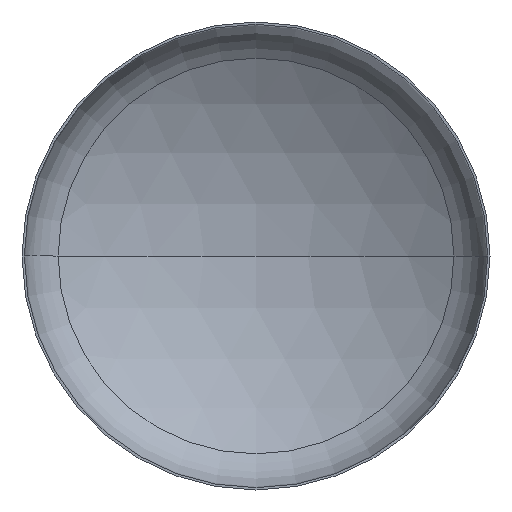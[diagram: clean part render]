
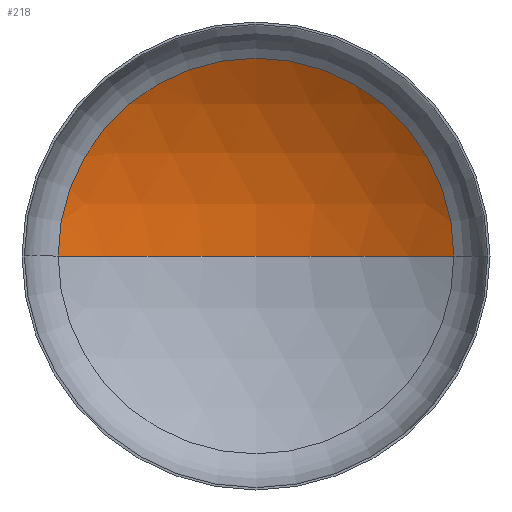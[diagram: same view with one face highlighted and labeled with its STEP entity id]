
A CAD part, front view. The second image highlights one B-rep face of the part: STEP entity #218.
In plain terms, the highlighted spherical face has radius 1280 mm.
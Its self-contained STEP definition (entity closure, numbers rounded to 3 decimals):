
#4 = CARTESIAN_POINT ( 'NONE',  ( 0., 232.988, 0. ) ) ;
#5 = AXIS2_PLACEMENT_3D ( 'NONE', #273, #112, #296 ) ;
#13 = VERTEX_POINT ( 'NONE', #391 ) ;
#22 = DIRECTION ( 'NONE',  ( 1., 0., 0. ) ) ;
#27 = ORIENTED_EDGE ( 'NONE', *, *, #330, .T. ) ;
#35 = DIRECTION ( 'NONE',  ( 0., -1., 0. ) ) ;
#37 = ORIENTED_EDGE ( 'NONE', *, *, #383, .F. ) ;
#43 = CIRCLE ( 'NONE', #48, 676.483 ) ;
#48 = AXIS2_PLACEMENT_3D ( 'NONE', #4, #35, #22 ) ;
#56 = VERTEX_POINT ( 'NONE', #177 ) ;
#63 = EDGE_LOOP ( 'NONE', ( #37, #106, #27 ) ) ;
#85 = VERTEX_POINT ( 'NONE', #334 ) ;
#104 = AXIS2_PLACEMENT_3D ( 'NONE', #176, #348, #200 ) ;
#106 = ORIENTED_EDGE ( 'NONE', *, *, #385, .T. ) ;
#112 = DIRECTION ( 'NONE',  ( 0., 0., 1. ) ) ;
#121 = AXIS2_PLACEMENT_3D ( 'NONE', #168, #156, #150 ) ;
#129 = FACE_OUTER_BOUND ( 'NONE', #63, .T. ) ;
#150 = DIRECTION ( 'NONE',  ( -1., 0., 0. ) ) ;
#156 = DIRECTION ( 'NONE',  ( 0., 0., -1. ) ) ;
#159 = CIRCLE ( 'NONE', #104, 1280. ) ;
#168 = CARTESIAN_POINT ( 'NONE',  ( 0., -853.644, 0. ) ) ;
#176 = CARTESIAN_POINT ( 'NONE',  ( 0., -853.644, 0. ) ) ;
#177 = CARTESIAN_POINT ( 'NONE',  ( 676.483, 232.988, 0. ) ) ;
#200 = DIRECTION ( 'NONE',  ( -1., 0., 0. ) ) ;
#218 = ADVANCED_FACE ( 'NONE', ( #129 ), #327, .F. ) ;
#273 = CARTESIAN_POINT ( 'NONE',  ( 0., -853.644, 0. ) ) ;
#296 = DIRECTION ( 'NONE',  ( 1., 0., 0. ) ) ;
#327 = SPHERICAL_SURFACE ( 'NONE', #121, 1280. ) ;
#330 = EDGE_CURVE ( 'NONE', #56, #85, #43, .T. ) ;
#334 = CARTESIAN_POINT ( 'NONE',  ( -676.483, 232.988, 0. ) ) ;
#348 = DIRECTION ( 'NONE',  ( 0., 0., -1. ) ) ;
#383 = EDGE_CURVE ( 'NONE', #13, #85, #408, .T. ) ;
#385 = EDGE_CURVE ( 'NONE', #13, #56, #159, .T. ) ;
#391 = CARTESIAN_POINT ( 'NONE',  ( 0., 426.356, 0. ) ) ;
#408 = CIRCLE ( 'NONE', #5, 1280. ) ;
